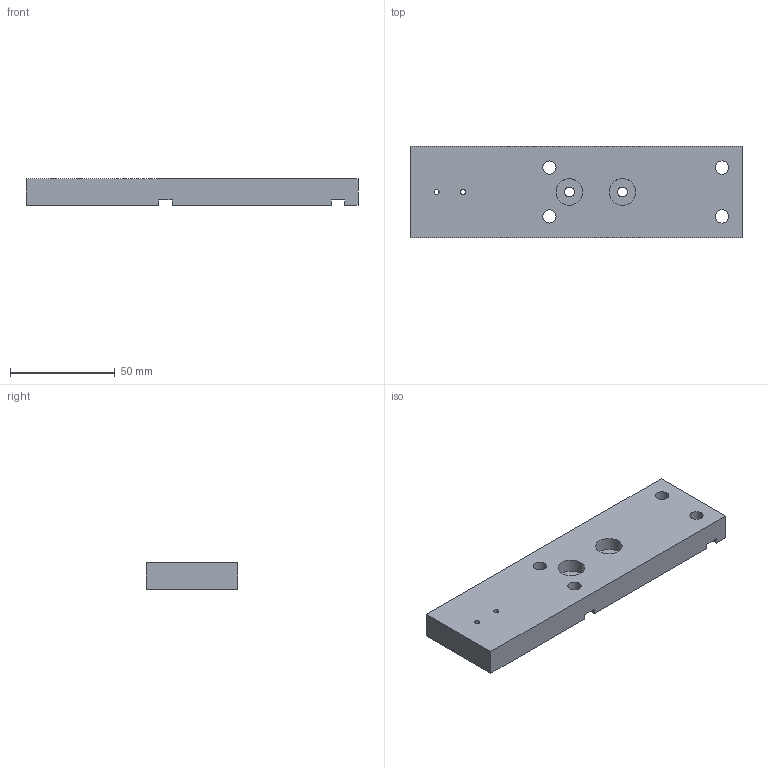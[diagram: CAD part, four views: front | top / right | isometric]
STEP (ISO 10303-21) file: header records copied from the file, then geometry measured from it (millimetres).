
FILE_DESCRIPTION(('FreeCAD Model'),'2;1');
FILE_NAME('/home/jwright/Documents/Mach_30/Shepard_v1.0_CAD/STEP_Files/Shepard_v1.0_Motor_Mount_MMB01.step','2012-10-23T09:28:58',('FreeCAD'),( 'FreeCAD'),'Open CASCADE STEP processor 6.5','FreeCAD','Unknown');
FILE_SCHEMA(('AUTOMOTIVE_DESIGN_CC2 { 1 2 10303 214 -1 1 5 4 }'));
Length unit declared in the file: millimetre
Products named in the file (1): Cut004
Bounding box: 158.75 x 43.66 x 12.7 mm (x, y, z)
Volume: 83373 mm3; surface area: 20736.1 mm2
Topology: 1 solids, 1 shells, 38 faces, 106 edges, 68 vertices
Faces by surface type: plane 28, cylinder 10
Full cylindrical faces by diameter (mm): 2.381 x2, 4.762 x2, 6.35 x4, 12.7 x2
Entity records: 2903 total; most frequent: CARTESIAN_POINT 433, DIRECTION 424, LINE 238, VECTOR 238, ORIENTED_EDGE 212, PCURVE 212, DEFINITIONAL_REPRESENTATION 212, EDGE_CURVE 106
